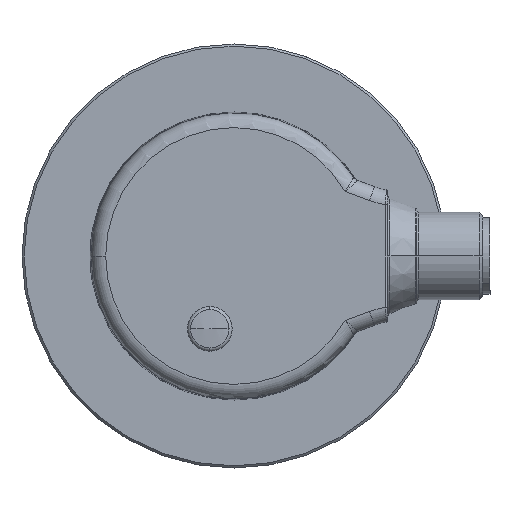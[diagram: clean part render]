
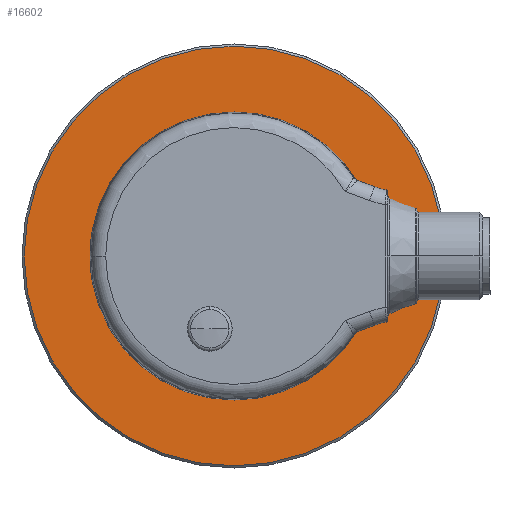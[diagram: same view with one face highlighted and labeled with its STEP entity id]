
A CAD part, left-side view. The second image highlights one B-rep face of the part: STEP entity #16602.
In plain terms, the highlighted planar face has unit normal (-1, 0, 0).
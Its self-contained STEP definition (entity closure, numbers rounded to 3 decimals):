
#547 = EDGE_LOOP ( 'NONE', ( #9746, #18498 ) ) ;
#1598 = DIRECTION ( 'NONE',  ( 0., 0.342, -0.94 ) ) ;
#1768 = PLANE ( 'NONE',  #5862 ) ;
#2102 = EDGE_CURVE ( 'NONE', #4232, #17267, #2565, .T. ) ;
#2365 = DIRECTION ( 'NONE',  ( 0., 0.342, -0.94 ) ) ;
#2565 = CIRCLE ( 'NONE', #16619, 28.7 ) ;
#3604 = VERTEX_POINT ( 'NONE', #10119 ) ;
#4001 = DIRECTION ( 'NONE',  ( 0., 0.342, -0.94 ) ) ;
#4232 = VERTEX_POINT ( 'NONE', #4255 ) ;
#4255 = CARTESIAN_POINT ( 'NONE',  ( 2.45, -9.816, 26.969 ) ) ;
#5031 = CIRCLE ( 'NONE', #5930, 19.7 ) ;
#5522 = ORIENTED_EDGE ( 'NONE', *, *, #2102, .T. ) ;
#5782 = EDGE_LOOP ( 'NONE', ( #18103, #5522 ) ) ;
#5862 = AXIS2_PLACEMENT_3D ( 'NONE', #12975, #18847, #7553 ) ;
#5930 = AXIS2_PLACEMENT_3D ( 'NONE', #18618, #12569, #2365 ) ;
#6140 = CIRCLE ( 'NONE', #17160, 19.7 ) ;
#6861 = CARTESIAN_POINT ( 'NONE',  ( 2.45, 0., 0. ) ) ;
#7553 = DIRECTION ( 'NONE',  ( 0., 1., 0. ) ) ;
#7654 = CARTESIAN_POINT ( 'NONE',  ( 2.45, -6.738, 18.512 ) ) ;
#8065 = EDGE_CURVE ( 'NONE', #16691, #3604, #6140, .T. ) ;
#9617 = CARTESIAN_POINT ( 'NONE',  ( 2.45, 9.816, -26.969 ) ) ;
#9746 = ORIENTED_EDGE ( 'NONE', *, *, #18415, .T. ) ;
#10119 = CARTESIAN_POINT ( 'NONE',  ( 2.45, 6.738, -18.512 ) ) ;
#11884 = FACE_BOUND ( 'NONE', #547, .T. ) ;
#12569 = DIRECTION ( 'NONE',  ( 1., 0., 0. ) ) ;
#12975 = CARTESIAN_POINT ( 'NONE',  ( 2.45, -6.738, 18.512 ) ) ;
#13348 = CARTESIAN_POINT ( 'NONE',  ( 2.45, 0., 0. ) ) ;
#13920 = CIRCLE ( 'NONE', #18539, 28.7 ) ;
#14479 = EDGE_CURVE ( 'NONE', #17267, #4232, #13920, .T. ) ;
#14545 = DIRECTION ( 'NONE',  ( 0., 0.342, -0.94 ) ) ;
#14830 = CARTESIAN_POINT ( 'NONE',  ( 2.45, 0., 0. ) ) ;
#15764 = FACE_OUTER_BOUND ( 'NONE', #5782, .T. ) ;
#16602 = ADVANCED_FACE ( 'NONE', ( #15764, #11884 ), #1768, .F. ) ;
#16619 = AXIS2_PLACEMENT_3D ( 'NONE', #14830, #17714, #14545 ) ;
#16691 = VERTEX_POINT ( 'NONE', #7654 ) ;
#17043 = DIRECTION ( 'NONE',  ( -1., 0., 0. ) ) ;
#17160 = AXIS2_PLACEMENT_3D ( 'NONE', #13348, #17854, #1598 ) ;
#17267 = VERTEX_POINT ( 'NONE', #9617 ) ;
#17714 = DIRECTION ( 'NONE',  ( -1., 0., 0. ) ) ;
#17854 = DIRECTION ( 'NONE',  ( 1., 0., 0. ) ) ;
#18103 = ORIENTED_EDGE ( 'NONE', *, *, #14479, .T. ) ;
#18415 = EDGE_CURVE ( 'NONE', #3604, #16691, #5031, .T. ) ;
#18498 = ORIENTED_EDGE ( 'NONE', *, *, #8065, .T. ) ;
#18539 = AXIS2_PLACEMENT_3D ( 'NONE', #6861, #17043, #4001 ) ;
#18618 = CARTESIAN_POINT ( 'NONE',  ( 2.45, 0., 0. ) ) ;
#18847 = DIRECTION ( 'NONE',  ( 1., 0., 0. ) ) ;
